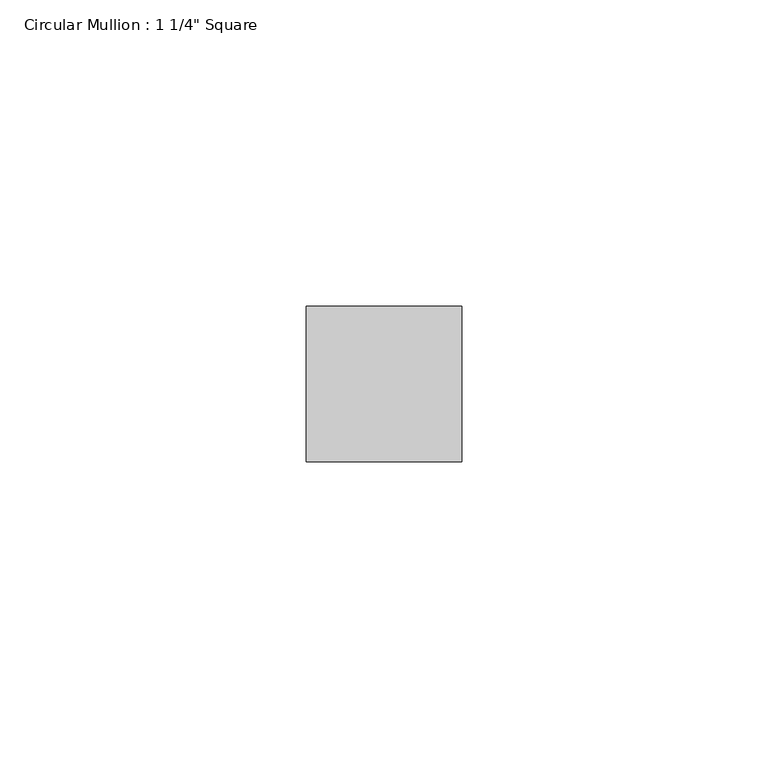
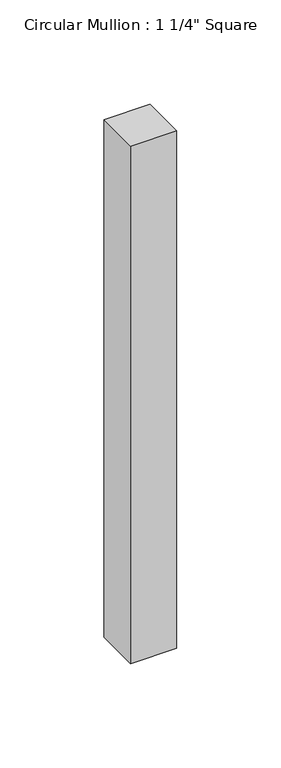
"""IFC4 building model written with IfcOpenShell, lengths in millimetres: member geometry."""

from ifc_helpers import new_model, si_unit, frame, origin, place, context, project, spatial, polyline, outline, extrude, source, transform, mapped, element, save


def member_2db4d105(model_context):
    return source(origin(), model_context, "Body", "SweptSolid", [
        extrude(outline(polyline([(12.7, 12.7), (12.7, -12.7), (-12.7, -12.7), (-12.7, 12.7), (12.7, 12.7)])), frame((0.0, 0.0, -302.4123997), z_axis=(0.0, 0.0, 1.0), x_axis=(1.0, 0.0, 0.0)), (0.0, 0.0, 1.0), 302.4123997),
    ])


if __name__ == "__main__":
    model = new_model("IFC4")
    model_context = context("Model", 3, world=origin())
    ifc_project = project(units=[si_unit("LENGTHUNIT", "METRE", prefix="MILLI")], contexts=[model_context])
    site = spatial("IfcSite", under=ifc_project)
    building = spatial("IfcBuilding", under=site)
    placement = place(None, origin())
    member_shape = member_2db4d105(model_context)
    element("IfcMember", 1, ObjectType="Circular Mullion : 1 1/4\" Square", at=placement, inside=building, context=model_context, shape_type="MappedRepresentation", body=[
        mapped(member_shape, transform((0.0, 0.0, 0.0), x_axis=(1.0, 0.0, 0.0), y_axis=(0.0, 1.0, 0.0), z_axis=(0.0, 0.0, 1.0))),
    ])
    save(model, "model.ifc")
